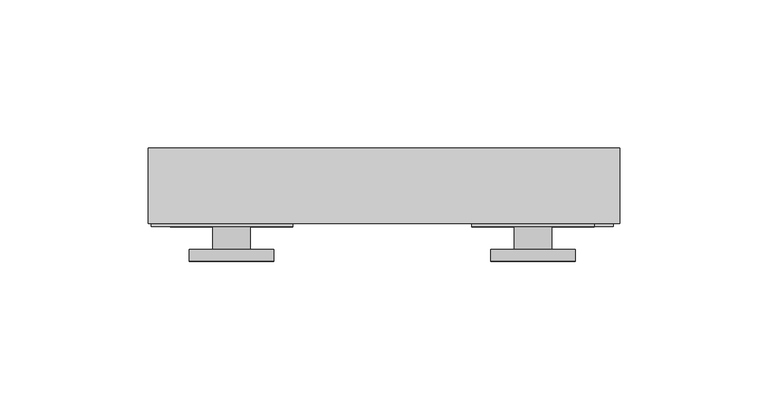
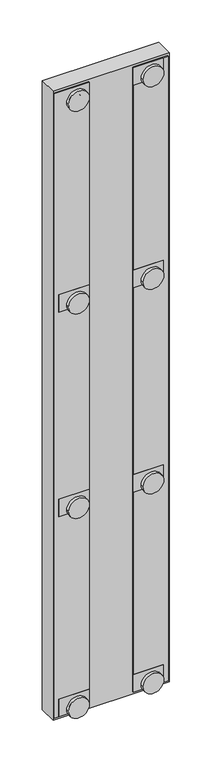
"""IFC4 building model written with IfcOpenShell, lengths in millimetres: proxy geometry, AERO^TABLE 4_6  X 36 BASE-REV221."""

from ifc_helpers import new_model, si_unit, frame, origin, place, context, project, spatial, polyline, circle_curve, outline, extrude, source, transform, mapped, element, save
from ifc_brep_helpers import plane_surface, cylinder_surface, advanced_brep


def generic_models_b9161e84(model_context):
    return source(origin(), model_context, "Body", "SolidModel", [
        extrude(outline(polyline([(108.966, -1.016), (108.966, 18.034), (150.241, 18.034), (150.241, -1.016), (108.966, -1.016)])), frame((0.0, 0.0, -28.5242), z_axis=(0.0, 0.0, 1.0), x_axis=(1.0, 0.0, 0.0)), (0.0, 0.0, 1.0), 25.4),
        extrude(outline(polyline([(7.366, 18.034), (48.641, 18.034), (48.641, -1.016), (7.366, -1.016), (7.366, 18.034)])), frame((0.0, 0.0, -321.0687), z_axis=(0.0, 0.0, 1.0), x_axis=(1.0, 0.0, 0.0)), (0.0, 0.0, 1.0), 25.4),
        extrude(outline(polyline([(7.366, 18.034), (48.641, 18.034), (48.641, -1.016), (7.366, -1.016), (7.366, 18.034)])), frame((0.0, 0.0, -904.91945), z_axis=(0.0, 0.0, 1.0), x_axis=(1.0, 0.0, 0.0)), (0.0, 0.0, 1.0), 25.4),
        extrude(outline(polyline([(7.366, 18.034), (48.641, 18.034), (48.641, -1.016), (7.366, -1.016), (7.366, 18.034)])), frame((0.0, 0.0, -616.3437), z_axis=(0.0, 0.0, 1.0), x_axis=(1.0, 0.0, 0.0)), (0.0, 0.0, 1.0), 25.4),
        extrude(outline(polyline([(1.016, 24.384), (48.641, 24.384), (48.641, -1.016), (1.016, -1.016), (1.016, 24.384)])), frame((0.0, 0.0, -904.91945), z_axis=(0.0, 0.0, 1.0), x_axis=(1.0, 0.0, 0.0)), (0.0, 0.0, 1.0), 901.79525),
        extrude(outline(polyline([(108.966, -1.016), (108.966, 18.034), (150.241, 18.034), (150.241, -1.016), (108.966, -1.016)])), frame((0.0, 0.0, -321.0687), z_axis=(0.0, 0.0, 1.0), x_axis=(1.0, 0.0, 0.0)), (0.0, 0.0, 1.0), 25.4),
        extrude(outline(polyline([(108.966, -1.016), (108.966, 18.034), (150.241, 18.034), (150.241, -1.016), (108.966, -1.016)])), frame((0.0, 0.0, -904.91945), z_axis=(0.0, 0.0, 1.0), x_axis=(1.0, 0.0, 0.0)), (0.0, 0.0, 1.0), 25.4),
        extrude(outline(polyline([(7.366, 18.034), (48.641, 18.034), (48.641, -1.016), (7.366, -1.016), (7.366, 18.034)])), frame((0.0, 0.0, -28.5242), z_axis=(0.0, 0.0, 1.0), x_axis=(1.0, 0.0, 0.0)), (0.0, 0.0, 1.0), 25.4),
        extrude(outline(polyline([(108.966, -1.016), (108.966, 18.034), (150.241, 18.034), (150.241, -1.016), (108.966, -1.016)])), frame((0.0, 0.0, -616.3437), z_axis=(0.0, 0.0, 1.0), x_axis=(1.0, 0.0, 0.0)), (0.0, 0.0, 1.0), 25.4),
        extrude(outline(polyline([(108.966, 24.384), (156.591, 24.384), (156.591, -1.016), (108.966, -1.016), (108.966, 24.384)])), frame((0.0, 0.0, -904.91945), z_axis=(0.0, 0.0, 1.0), x_axis=(1.0, 0.0, 0.0)), (0.0, 0.0, 1.0), 901.79525),
        advanced_brep(
        [(34.3535, -0.7874, -892.21945), (34.3535, -8.7249, -892.21945), (21.6535, -8.7249, -892.21945), (21.6535, -0.7874, -892.21945), (42.291, -8.7249, -892.21945), (42.291, -12.69365, -892.21945), (13.716, -12.69365, -892.21945), (13.716, -8.7249, -892.21945)],
        [
            (0, 1),
            (1, 2, circle_curve(frame((28.0035, -8.7249, -892.21945), z_axis=(0.0, 1.0, 0.0), x_axis=(1.0, 0.0, 0.0)), 6.35)),
            (2, 3),
            (3, 0, circle_curve(frame((28.0035, -0.7874, -892.21945), z_axis=(0.0, -1.0, 0.0), x_axis=(1.0, 0.0, 0.0)), 6.35)),
            (4, 5),
            (5, 6, circle_curve(frame((28.0035, -12.69365, -892.21945), z_axis=(0.0, 1.0, 0.0), x_axis=(1.0, 0.0, 0.0)), 14.2875)),
            (6, 7),
            (7, 4, circle_curve(frame((28.0035, -8.7249, -892.21945), z_axis=(0.0, -1.0, 0.0), x_axis=(1.0, 0.0, 0.0)), 14.2875)),
            (7, 4, circle_curve(frame((28.0035, -8.7249, -892.21945), z_axis=(0.0, 1.0, 0.0), x_axis=(1.0, 0.0, 0.0)), 14.2875)),
            (1, 2, circle_curve(frame((28.0035, -8.7249, -892.21945), z_axis=(0.0, -1.0, 0.0), x_axis=(1.0, 0.0, 0.0)), 6.35)),
            (6, 5, circle_curve(frame((28.0035, -12.69365, -892.21945), z_axis=(0.0, 1.0, 0.0), x_axis=(1.0, 0.0, 0.0)), 14.2875)),
            (3, 0, circle_curve(frame((28.0035, -0.7874, -892.21945), z_axis=(0.0, 1.0, 0.0), x_axis=(1.0, 0.0, 0.0)), 6.35)),
        ],
        [
            cylinder_surface(frame((28.0035, -1.58115, -892.21945), z_axis=(0.0, -1.0, 0.0), x_axis=(1.0, 0.0, 0.0)), 6.35),
            cylinder_surface(frame((28.0035, -9.51865, -892.21945), z_axis=(0.0, -1.0, 0.0), x_axis=(1.0, 0.0, 0.0)), 14.2875),
            plane_surface(frame((41.49725, -8.7249, -892.21945), z_axis=(0.0, 1.0, 0.0), x_axis=(0.0, 0.0, 1.0))),
            plane_surface(frame((32.766, -0.7874, -892.21945), z_axis=(0.0, 1.0, 0.0), x_axis=(0.0, 0.0, 1.0))),
            plane_surface(frame((33.956625, -12.69365, -892.21945), z_axis=(0.0, -1.0, 0.0), x_axis=(0.0, 0.0, -1.0))),
        ],
        [
            (0, [[1, 2, 3, 4]]),
            (1, [[5, 6, 7, 8]]),
            (2, [[9, -8], [10, -2]]),
            (1, [[-5, -9, -7, 11]]),
            (3, [[12, -4]]),
            (0, [[-1, -12, -3, -10]]),
            (4, [[-6, -11]]),
        ],
    ),
        advanced_brep(
        [(135.9535, -0.79375, -15.8242), (135.9535, -8.73125, -15.8242), (123.2535, -8.73125, -15.8242), (123.2535, -0.79375, -15.8242), (143.891, -8.73125, -15.8242), (143.891, -12.7, -15.8242), (115.316, -12.7, -15.8242), (115.316, -8.73125, -15.8242)],
        [
            (0, 1),
            (1, 2, circle_curve(frame((129.6035, -8.73125, -15.8242), z_axis=(0.0, 1.0, 0.0), x_axis=(1.0, 0.0, 0.0)), 6.35)),
            (2, 3),
            (3, 0, circle_curve(frame((129.6035, -0.79375, -15.8242), z_axis=(0.0, -1.0, 0.0), x_axis=(1.0, 0.0, 0.0)), 6.35)),
            (4, 5),
            (5, 6, circle_curve(frame((129.6035, -12.7, -15.8242), z_axis=(0.0, 1.0, 0.0), x_axis=(1.0, 0.0, 0.0)), 14.2875)),
            (6, 7),
            (7, 4, circle_curve(frame((129.6035, -8.73125, -15.8242), z_axis=(0.0, -1.0, 0.0), x_axis=(1.0, 0.0, 0.0)), 14.2875)),
            (7, 4, circle_curve(frame((129.6035, -8.73125, -15.8242), z_axis=(0.0, 1.0, 0.0), x_axis=(1.0, 0.0, 0.0)), 14.2875)),
            (1, 2, circle_curve(frame((129.6035, -8.73125, -15.8242), z_axis=(0.0, -1.0, 0.0), x_axis=(1.0, 0.0, 0.0)), 6.35)),
            (6, 5, circle_curve(frame((129.6035, -12.7, -15.8242), z_axis=(0.0, 1.0, 0.0), x_axis=(1.0, 0.0, 0.0)), 14.2875)),
            (3, 0, circle_curve(frame((129.6035, -0.79375, -15.8242), z_axis=(0.0, 1.0, 0.0), x_axis=(1.0, 0.0, 0.0)), 6.35)),
        ],
        [
            cylinder_surface(frame((129.6035, -1.5875, -15.8242), z_axis=(0.0, -1.0, 0.0), x_axis=(1.0, 0.0, 0.0)), 6.35),
            cylinder_surface(frame((129.6035, -9.525, -15.8242), z_axis=(0.0, -1.0, 0.0), x_axis=(1.0, 0.0, 0.0)), 14.2875),
            plane_surface(frame((143.09725, -8.73125, -15.8242), z_axis=(0.0, 1.0, 0.0), x_axis=(0.0, 0.0, 1.0))),
            plane_surface(frame((134.366, -0.79375, -15.8242), z_axis=(0.0, 1.0, 0.0), x_axis=(0.0, 0.0, 1.0))),
            plane_surface(frame((135.556625, -12.7, -15.8242), z_axis=(0.0, -1.0, 0.0), x_axis=(0.0, 0.0, -1.0))),
        ],
        [
            (0, [[1, 2, 3, 4]]),
            (1, [[5, 6, 7, 8]]),
            (2, [[9, -8], [10, -2]]),
            (1, [[-5, -9, -7, 11]]),
            (3, [[12, -4]]),
            (0, [[-1, -12, -3, -10]]),
            (4, [[-6, -11]]),
        ],
    ),
        advanced_brep(
        [(34.3535, -0.7874, -603.6437), (34.3535, -8.7249, -603.6437), (21.6535, -8.7249, -603.6437), (21.6535, -0.7874, -603.6437), (42.291, -8.7249, -603.6437), (42.291, -12.69365, -603.6437), (13.716, -12.69365, -603.6437), (13.716, -8.7249, -603.6437)],
        [
            (0, 1),
            (1, 2, circle_curve(frame((28.0035, -8.7249, -603.6437), z_axis=(0.0, 1.0, 0.0), x_axis=(1.0, 0.0, 0.0)), 6.35)),
            (2, 3),
            (3, 0, circle_curve(frame((28.0035, -0.7874, -603.6437), z_axis=(0.0, -1.0, 0.0), x_axis=(1.0, 0.0, 0.0)), 6.35)),
            (4, 5),
            (5, 6, circle_curve(frame((28.0035, -12.69365, -603.6437), z_axis=(0.0, 1.0, 0.0), x_axis=(1.0, 0.0, 0.0)), 14.2875)),
            (6, 7),
            (7, 4, circle_curve(frame((28.0035, -8.7249, -603.6437), z_axis=(0.0, -1.0, 0.0), x_axis=(1.0, 0.0, 0.0)), 14.2875)),
            (7, 4, circle_curve(frame((28.0035, -8.7249, -603.6437), z_axis=(0.0, 1.0, 0.0), x_axis=(1.0, 0.0, 0.0)), 14.2875)),
            (1, 2, circle_curve(frame((28.0035, -8.7249, -603.6437), z_axis=(0.0, -1.0, 0.0), x_axis=(1.0, 0.0, 0.0)), 6.35)),
            (6, 5, circle_curve(frame((28.0035, -12.69365, -603.6437), z_axis=(0.0, 1.0, 0.0), x_axis=(1.0, 0.0, 0.0)), 14.2875)),
            (3, 0, circle_curve(frame((28.0035, -0.7874, -603.6437), z_axis=(0.0, 1.0, 0.0), x_axis=(1.0, 0.0, 0.0)), 6.35)),
        ],
        [
            cylinder_surface(frame((28.0035, -1.58115, -603.6437), z_axis=(0.0, -1.0, 0.0), x_axis=(1.0, 0.0, 0.0)), 6.35),
            cylinder_surface(frame((28.0035, -9.51865, -603.6437), z_axis=(0.0, -1.0, 0.0), x_axis=(1.0, 0.0, 0.0)), 14.2875),
            plane_surface(frame((41.49725, -8.7249, -603.6437), z_axis=(0.0, 1.0, 0.0), x_axis=(0.0, 0.0, 1.0))),
            plane_surface(frame((32.766, -0.7874, -603.6437), z_axis=(0.0, 1.0, 0.0), x_axis=(0.0, 0.0, 1.0))),
            plane_surface(frame((33.956625, -12.69365, -603.6437), z_axis=(0.0, -1.0, 0.0), x_axis=(0.0, 0.0, -1.0))),
        ],
        [
            (0, [[1, 2, 3, 4]]),
            (1, [[5, 6, 7, 8]]),
            (2, [[9, -8], [10, -2]]),
            (1, [[-5, -9, -7, 11]]),
            (3, [[12, -4]]),
            (0, [[-1, -12, -3, -10]]),
            (4, [[-6, -11]]),
        ],
    ),
        advanced_brep(
        [(135.9535, -0.7874, -308.3687), (135.9535, -8.7249, -308.3687), (123.2535, -8.7249, -308.3687), (123.2535, -0.7874, -308.3687), (143.891, -8.7249, -308.3687), (143.891, -12.69365, -308.3687), (115.316, -12.69365, -308.3687), (115.316, -8.7249, -308.3687)],
        [
            (0, 1),
            (1, 2, circle_curve(frame((129.6035, -8.7249, -308.3687), z_axis=(0.0, 1.0, 0.0), x_axis=(1.0, 0.0, 0.0)), 6.35)),
            (2, 3),
            (3, 0, circle_curve(frame((129.6035, -0.7874, -308.3687), z_axis=(0.0, -1.0, 0.0), x_axis=(1.0, 0.0, 0.0)), 6.35)),
            (4, 5),
            (5, 6, circle_curve(frame((129.6035, -12.69365, -308.3687), z_axis=(0.0, 1.0, 0.0), x_axis=(1.0, 0.0, 0.0)), 14.2875)),
            (6, 7),
            (7, 4, circle_curve(frame((129.6035, -8.7249, -308.3687), z_axis=(0.0, -1.0, 0.0), x_axis=(1.0, 0.0, 0.0)), 14.2875)),
            (7, 4, circle_curve(frame((129.6035, -8.7249, -308.3687), z_axis=(0.0, 1.0, 0.0), x_axis=(1.0, 0.0, 0.0)), 14.2875)),
            (1, 2, circle_curve(frame((129.6035, -8.7249, -308.3687), z_axis=(0.0, -1.0, 0.0), x_axis=(1.0, 0.0, 0.0)), 6.35)),
            (6, 5, circle_curve(frame((129.6035, -12.69365, -308.3687), z_axis=(0.0, 1.0, 0.0), x_axis=(1.0, 0.0, 0.0)), 14.2875)),
            (3, 0, circle_curve(frame((129.6035, -0.7874, -308.3687), z_axis=(0.0, 1.0, 0.0), x_axis=(1.0, 0.0, 0.0)), 6.35)),
        ],
        [
            cylinder_surface(frame((129.6035, -1.58115, -308.3687), z_axis=(0.0, -1.0, 0.0), x_axis=(1.0, 0.0, 0.0)), 6.35),
            cylinder_surface(frame((129.6035, -9.51865, -308.3687), z_axis=(0.0, -1.0, 0.0), x_axis=(1.0, 0.0, 0.0)), 14.2875),
            plane_surface(frame((143.09725, -8.7249, -308.3687), z_axis=(0.0, 1.0, 0.0), x_axis=(0.0, 0.0, 1.0))),
            plane_surface(frame((134.366, -0.7874, -308.3687), z_axis=(0.0, 1.0, 0.0), x_axis=(0.0, 0.0, 1.0))),
            plane_surface(frame((135.556625, -12.69365, -308.3687), z_axis=(0.0, -1.0, 0.0), x_axis=(0.0, 0.0, -1.0))),
        ],
        [
            (0, [[1, 2, 3, 4]]),
            (1, [[5, 6, 7, 8]]),
            (2, [[9, -8], [10, -2]]),
            (1, [[-5, -9, -7, 11]]),
            (3, [[12, -4]]),
            (0, [[-1, -12, -3, -10]]),
            (4, [[-6, -11]]),
        ],
    ),
        advanced_brep(
        [(135.9535, -0.7874, -603.6437), (135.9535, -8.7249, -603.6437), (123.2535, -8.7249, -603.6437), (123.2535, -0.7874, -603.6437), (143.891, -8.7249, -603.6437), (143.891, -12.69365, -603.6437), (115.316, -12.69365, -603.6437), (115.316, -8.7249, -603.6437)],
        [
            (0, 1),
            (1, 2, circle_curve(frame((129.6035, -8.7249, -603.6437), z_axis=(0.0, 1.0, 0.0), x_axis=(1.0, 0.0, 0.0)), 6.35)),
            (2, 3),
            (3, 0, circle_curve(frame((129.6035, -0.7874, -603.6437), z_axis=(0.0, -1.0, 0.0), x_axis=(1.0, 0.0, 0.0)), 6.35)),
            (4, 5),
            (5, 6, circle_curve(frame((129.6035, -12.69365, -603.6437), z_axis=(0.0, 1.0, 0.0), x_axis=(1.0, 0.0, 0.0)), 14.2875)),
            (6, 7),
            (7, 4, circle_curve(frame((129.6035, -8.7249, -603.6437), z_axis=(0.0, -1.0, 0.0), x_axis=(1.0, 0.0, 0.0)), 14.2875)),
            (7, 4, circle_curve(frame((129.6035, -8.7249, -603.6437), z_axis=(0.0, 1.0, 0.0), x_axis=(1.0, 0.0, 0.0)), 14.2875)),
            (1, 2, circle_curve(frame((129.6035, -8.7249, -603.6437), z_axis=(0.0, -1.0, 0.0), x_axis=(1.0, 0.0, 0.0)), 6.35)),
            (6, 5, circle_curve(frame((129.6035, -12.69365, -603.6437), z_axis=(0.0, 1.0, 0.0), x_axis=(1.0, 0.0, 0.0)), 14.2875)),
            (3, 0, circle_curve(frame((129.6035, -0.7874, -603.6437), z_axis=(0.0, 1.0, 0.0), x_axis=(1.0, 0.0, 0.0)), 6.35)),
        ],
        [
            cylinder_surface(frame((129.6035, -1.58115, -603.6437), z_axis=(0.0, -1.0, 0.0), x_axis=(1.0, 0.0, 0.0)), 6.35),
            cylinder_surface(frame((129.6035, -9.51865, -603.6437), z_axis=(0.0, -1.0, 0.0), x_axis=(1.0, 0.0, 0.0)), 14.2875),
            plane_surface(frame((143.09725, -8.7249, -603.6437), z_axis=(0.0, 1.0, 0.0), x_axis=(0.0, 0.0, 1.0))),
            plane_surface(frame((134.366, -0.7874, -603.6437), z_axis=(0.0, 1.0, 0.0), x_axis=(0.0, 0.0, 1.0))),
            plane_surface(frame((135.556625, -12.69365, -603.6437), z_axis=(0.0, -1.0, 0.0), x_axis=(0.0, 0.0, -1.0))),
        ],
        [
            (0, [[1, 2, 3, 4]]),
            (1, [[5, 6, 7, 8]]),
            (2, [[9, -8], [10, -2]]),
            (1, [[-5, -9, -7, 11]]),
            (3, [[12, -4]]),
            (0, [[-1, -12, -3, -10]]),
            (4, [[-6, -11]]),
        ],
    ),
        advanced_brep(
        [(34.3535, -0.79375, -308.3687), (34.3535, -8.73125, -308.3687), (21.6535, -8.73125, -308.3687), (21.6535, -0.79375, -308.3687), (42.291, -8.73125, -308.3687), (42.291, -12.7, -308.3687), (13.716, -12.7, -308.3687), (13.716, -8.73125, -308.3687)],
        [
            (0, 1),
            (1, 2, circle_curve(frame((28.0035, -8.73125, -308.3687), z_axis=(0.0, 1.0, 0.0), x_axis=(1.0, 0.0, 0.0)), 6.35)),
            (2, 3),
            (3, 0, circle_curve(frame((28.0035, -0.79375, -308.3687), z_axis=(0.0, -1.0, 0.0), x_axis=(1.0, 0.0, 0.0)), 6.35)),
            (4, 5),
            (5, 6, circle_curve(frame((28.0035, -12.7, -308.3687), z_axis=(0.0, 1.0, 0.0), x_axis=(1.0, 0.0, 0.0)), 14.2875)),
            (6, 7),
            (7, 4, circle_curve(frame((28.0035, -8.73125, -308.3687), z_axis=(0.0, -1.0, 0.0), x_axis=(1.0, 0.0, 0.0)), 14.2875)),
            (7, 4, circle_curve(frame((28.0035, -8.73125, -308.3687), z_axis=(0.0, 1.0, 0.0), x_axis=(1.0, 0.0, 0.0)), 14.2875)),
            (1, 2, circle_curve(frame((28.0035, -8.73125, -308.3687), z_axis=(0.0, -1.0, 0.0), x_axis=(1.0, 0.0, 0.0)), 6.35)),
            (6, 5, circle_curve(frame((28.0035, -12.7, -308.3687), z_axis=(0.0, 1.0, 0.0), x_axis=(1.0, 0.0, 0.0)), 14.2875)),
            (3, 0, circle_curve(frame((28.0035, -0.79375, -308.3687), z_axis=(0.0, 1.0, 0.0), x_axis=(1.0, 0.0, 0.0)), 6.35)),
        ],
        [
            cylinder_surface(frame((28.0035, -1.5875, -308.3687), z_axis=(0.0, -1.0, 0.0), x_axis=(1.0, 0.0, 0.0)), 6.35),
            cylinder_surface(frame((28.0035, -9.525, -308.3687), z_axis=(0.0, -1.0, 0.0), x_axis=(1.0, 0.0, 0.0)), 14.2875),
            plane_surface(frame((41.49725, -8.73125, -308.3687), z_axis=(0.0, 1.0, 0.0), x_axis=(0.0, 0.0, 1.0))),
            plane_surface(frame((32.766, -0.79375, -308.3687), z_axis=(0.0, 1.0, 0.0), x_axis=(0.0, 0.0, 1.0))),
            plane_surface(frame((33.956625, -12.7, -308.3687), z_axis=(0.0, -1.0, 0.0), x_axis=(0.0, 0.0, -1.0))),
        ],
        [
            (0, [[1, 2, 3, 4]]),
            (1, [[5, 6, 7, 8]]),
            (2, [[9, -8], [10, -2]]),
            (1, [[-5, -9, -7, 11]]),
            (3, [[12, -4]]),
            (0, [[-1, -12, -3, -10]]),
            (4, [[-6, -11]]),
        ],
    ),
        extrude(outline(polyline([(158.75, 25.4), (158.75, 0.0), (0.0, 0.0), (0.0, 25.4), (158.75, 25.4)])), frame((0.0, 0.0, -908.05), z_axis=(0.0, 0.0, 1.0), x_axis=(1.0, 0.0, 0.0)), (0.0, 0.0, 1.0), 908.05),
        advanced_brep(
        [(135.9535, -0.7874, -892.21945), (135.9535, -8.7249, -892.21945), (123.2535, -8.7249, -892.21945), (123.2535, -0.7874, -892.21945), (143.891, -8.7249, -892.21945), (143.891, -12.69365, -892.21945), (115.316, -12.69365, -892.21945), (115.316, -8.7249, -892.21945)],
        [
            (0, 1),
            (1, 2, circle_curve(frame((129.6035, -8.7249, -892.21945), z_axis=(0.0, 1.0, 0.0), x_axis=(1.0, 0.0, 0.0)), 6.35)),
            (2, 3),
            (3, 0, circle_curve(frame((129.6035, -0.7874, -892.21945), z_axis=(0.0, -1.0, 0.0), x_axis=(1.0, 0.0, 0.0)), 6.35)),
            (4, 5),
            (5, 6, circle_curve(frame((129.6035, -12.69365, -892.21945), z_axis=(0.0, 1.0, 0.0), x_axis=(1.0, 0.0, 0.0)), 14.2875)),
            (6, 7),
            (7, 4, circle_curve(frame((129.6035, -8.7249, -892.21945), z_axis=(0.0, -1.0, 0.0), x_axis=(1.0, 0.0, 0.0)), 14.2875)),
            (7, 4, circle_curve(frame((129.6035, -8.7249, -892.21945), z_axis=(0.0, 1.0, 0.0), x_axis=(1.0, 0.0, 0.0)), 14.2875)),
            (1, 2, circle_curve(frame((129.6035, -8.7249, -892.21945), z_axis=(0.0, -1.0, 0.0), x_axis=(1.0, 0.0, 0.0)), 6.35)),
            (6, 5, circle_curve(frame((129.6035, -12.69365, -892.21945), z_axis=(0.0, 1.0, 0.0), x_axis=(1.0, 0.0, 0.0)), 14.2875)),
            (3, 0, circle_curve(frame((129.6035, -0.7874, -892.21945), z_axis=(0.0, 1.0, 0.0), x_axis=(1.0, 0.0, 0.0)), 6.35)),
        ],
        [
            cylinder_surface(frame((129.6035, -1.58115, -892.21945), z_axis=(0.0, -1.0, 0.0), x_axis=(1.0, 0.0, 0.0)), 6.35),
            cylinder_surface(frame((129.6035, -9.51865, -892.21945), z_axis=(0.0, -1.0, 0.0), x_axis=(1.0, 0.0, 0.0)), 14.2875),
            plane_surface(frame((143.09725, -8.7249, -892.21945), z_axis=(0.0, 1.0, 0.0), x_axis=(0.0, 0.0, 1.0))),
            plane_surface(frame((134.366, -0.7874, -892.21945), z_axis=(0.0, 1.0, 0.0), x_axis=(0.0, 0.0, 1.0))),
            plane_surface(frame((135.556625, -12.69365, -892.21945), z_axis=(0.0, -1.0, 0.0), x_axis=(0.0, 0.0, -1.0))),
        ],
        [
            (0, [[1, 2, 3, 4]]),
            (1, [[5, 6, 7, 8]]),
            (2, [[9, -8], [10, -2]]),
            (1, [[-5, -9, -7, 11]]),
            (3, [[12, -4]]),
            (0, [[-1, -12, -3, -10]]),
            (4, [[-6, -11]]),
        ],
    ),
        advanced_brep(
        [(34.3535, -0.7874, -15.8242), (34.3535, -8.7249, -15.8242), (21.6535, -8.7249, -15.8242), (21.6535, -0.7874, -15.8242), (42.291, -8.7249, -15.8242), (42.291, -12.69365, -15.8242), (13.716, -12.69365, -15.8242), (13.716, -8.7249, -15.8242)],
        [
            (0, 1),
            (1, 2, circle_curve(frame((28.0035, -8.7249, -15.8242), z_axis=(0.0, 1.0, 0.0), x_axis=(1.0, 0.0, 0.0)), 6.35)),
            (2, 3),
            (3, 0, circle_curve(frame((28.0035, -0.7874, -15.8242), z_axis=(0.0, -1.0, 0.0), x_axis=(1.0, 0.0, 0.0)), 6.35)),
            (4, 5),
            (5, 6, circle_curve(frame((28.0035, -12.69365, -15.8242), z_axis=(0.0, 1.0, 0.0), x_axis=(1.0, 0.0, 0.0)), 14.2875)),
            (6, 7),
            (7, 4, circle_curve(frame((28.0035, -8.7249, -15.8242), z_axis=(0.0, -1.0, 0.0), x_axis=(1.0, 0.0, 0.0)), 14.2875)),
            (7, 4, circle_curve(frame((28.0035, -8.7249, -15.8242), z_axis=(0.0, 1.0, 0.0), x_axis=(1.0, 0.0, 0.0)), 14.2875)),
            (1, 2, circle_curve(frame((28.0035, -8.7249, -15.8242), z_axis=(0.0, -1.0, 0.0), x_axis=(1.0, 0.0, 0.0)), 6.35)),
            (6, 5, circle_curve(frame((28.0035, -12.69365, -15.8242), z_axis=(0.0, 1.0, 0.0), x_axis=(1.0, 0.0, 0.0)), 14.2875)),
            (3, 0, circle_curve(frame((28.0035, -0.7874, -15.8242), z_axis=(0.0, 1.0, 0.0), x_axis=(1.0, 0.0, 0.0)), 6.35)),
        ],
        [
            cylinder_surface(frame((28.0035, -1.58115, -15.8242), z_axis=(0.0, -1.0, 0.0), x_axis=(1.0, 0.0, 0.0)), 6.35),
            cylinder_surface(frame((28.0035, -9.51865, -15.8242), z_axis=(0.0, -1.0, 0.0), x_axis=(1.0, 0.0, 0.0)), 14.2875),
            plane_surface(frame((41.49725, -8.7249, -15.8242), z_axis=(0.0, 1.0, 0.0), x_axis=(0.0, 0.0, 1.0))),
            plane_surface(frame((32.766, -0.7874, -15.8242), z_axis=(0.0, 1.0, 0.0), x_axis=(0.0, 0.0, 1.0))),
            plane_surface(frame((33.956625, -12.69365, -15.8242), z_axis=(0.0, -1.0, 0.0), x_axis=(0.0, 0.0, -1.0))),
        ],
        [
            (0, [[1, 2, 3, 4]]),
            (1, [[5, 6, 7, 8]]),
            (2, [[9, -8], [10, -2]]),
            (1, [[-5, -9, -7, 11]]),
            (3, [[12, -4]]),
            (0, [[-1, -12, -3, -10]]),
            (4, [[-6, -11]]),
        ],
    ),
    ])


if __name__ == "__main__":
    model = new_model("IFC4")
    model_context = context("Model", 3, world=origin())
    ifc_project = project(units=[si_unit("LENGTHUNIT", "METRE", prefix="MILLI")], contexts=[model_context])
    site = spatial("IfcSite", under=ifc_project)
    building = spatial("IfcBuilding", under=site)
    placement = place(None, origin())
    generic_models_shape = generic_models_b9161e84(model_context)
    element("IfcBuildingElementProxy", 1, Name="AERO^TABLE 4_6  X 36 BASE-REV221", ObjectType="AERO^TABLE 4_6  X 36 BASE-REV221", at=placement, inside=building, context=model_context, shape_type="MappedRepresentation", body=[
        mapped(generic_models_shape, transform((0.0, 0.0, 0.0), x_axis=(1.0, 0.0, 0.0), y_axis=(0.0, 1.0, 0.0), z_axis=(0.0, 0.0, 1.0))),
    ])
    save(model, "model.ifc")
